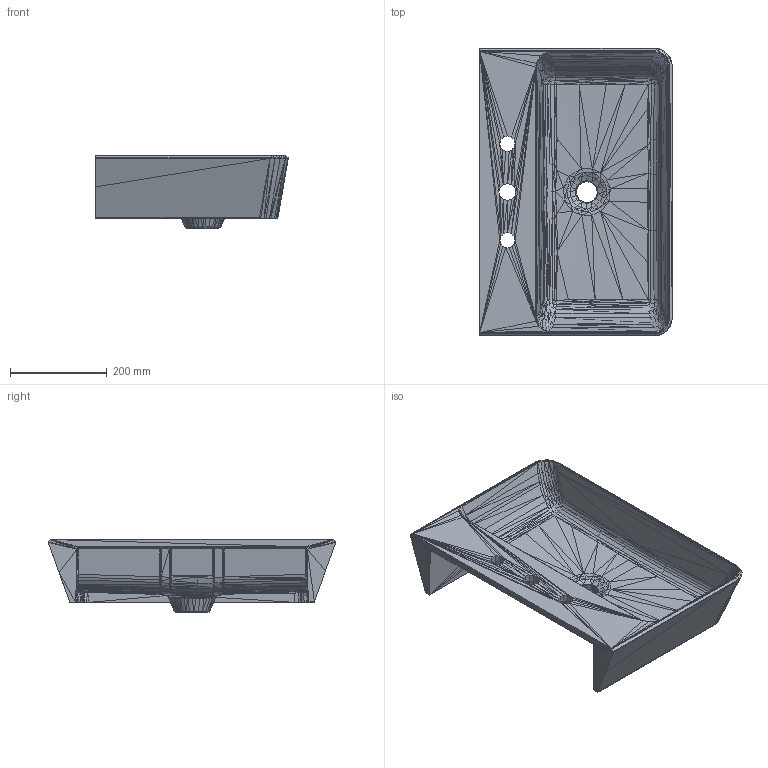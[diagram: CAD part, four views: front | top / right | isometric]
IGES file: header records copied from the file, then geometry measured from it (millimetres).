
Global section: file name: C:\Users\Sam Altman L JackSon\Downloads\Additional 2D and 3D files required for V+A NPD\Vetralla 60 3 holes\Vetralla 60 3 hole - 3d igs.igs; native system: Rhinoceros ( Mar  4 2026 ); preprocessor: Trout Lake IGES 012 Mar  4 2026; date: 260508.110905; units: millimetre
Bounding box: 398.99 x 595.82 x 151.1 mm (x, y, z)
Surface area: 869291.5 mm2 (no closed solid volume)
Topology: 0 solids, 0 shells, 2702 faces, 8498 edges, 8498 vertices
Faces by surface type: bspline 2702
